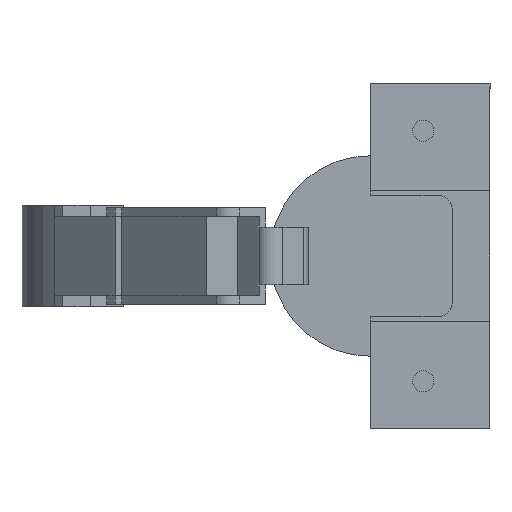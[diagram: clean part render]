
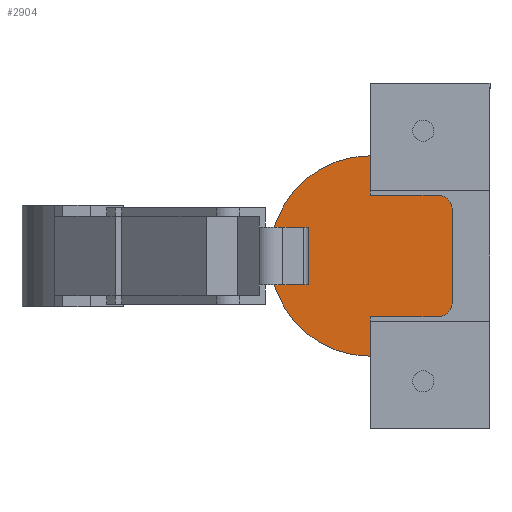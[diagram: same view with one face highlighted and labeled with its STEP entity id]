
A CAD part, front view. The second image highlights one B-rep face of the part: STEP entity #2904.
In plain terms, the highlighted planar face has unit normal (0, -1, 0).
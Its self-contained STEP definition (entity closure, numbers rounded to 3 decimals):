
#99 = EDGE_CURVE ( 'NONE', #1854, #958, #1106, .T. ) ;
#119 = DIRECTION ( 'NONE',  ( 0., 0., -1. ) ) ;
#213 = DIRECTION ( 'NONE',  ( -1., 0., 0. ) ) ;
#217 = DIRECTION ( 'NONE',  ( -1., 0., 0. ) ) ;
#226 = CIRCLE ( 'NONE', #585, 18. ) ;
#237 = ORIENTED_EDGE ( 'NONE', *, *, #1291, .T. ) ;
#274 = DIRECTION ( 'NONE',  ( 1., 0., 0. ) ) ;
#350 = VECTOR ( 'NONE', #1134, 1000. ) ;
#399 = LINE ( 'NONE', #3035, #3145 ) ;
#408 = EDGE_CURVE ( 'Kante1', #1653, #1127, #2064, .T. ) ;
#464 = LINE ( 'NONE', #699, #2978 ) ;
#467 = VECTOR ( 'NONE', #470, 1000. ) ;
#468 = FACE_OUTER_BOUND ( 'NONE', #2321, .T. ) ;
#470 = DIRECTION ( 'NONE',  ( -1., 0., 0. ) ) ;
#514 = AXIS2_PLACEMENT_3D ( 'NONE', #3190, #1934, #2451 ) ;
#529 = CARTESIAN_POINT ( 'NONE',  ( 55.005, -57.2, -8.4 ) ) ;
#537 = CARTESIAN_POINT ( 'NONE',  ( 28.996, -57.2, -5.2 ) ) ;
#565 = VERTEX_POINT ( 'NONE', #2468 ) ;
#578 = CARTESIAN_POINT ( 'NONE',  ( 40.305, -57.2, 0. ) ) ;
#585 = AXIS2_PLACEMENT_3D ( 'NONE', #578, #1587, #1090 ) ;
#634 = CARTESIAN_POINT ( 'NONE',  ( 55.005, -57.2, 8.4 ) ) ;
#699 = CARTESIAN_POINT ( 'NONE',  ( 28.996, -57.2, -5.2 ) ) ;
#712 = CARTESIAN_POINT ( 'NONE',  ( 52.505, -57.2, -8.4 ) ) ;
#723 = EDGE_LOOP ( 'NONE', ( #2652, #237, #1959, #1611 ) ) ;
#737 = AXIS2_PLACEMENT_3D ( 'NONE', #712, #3232, #217 ) ;
#750 = CIRCLE ( 'NONE', #514, 2.5 ) ;
#805 = VERTEX_POINT ( 'NONE', #2010 ) ;
#870 = CARTESIAN_POINT ( 'NONE',  ( 40.305, -57.2, -10.9 ) ) ;
#896 = ORIENTED_EDGE ( 'NONE', *, *, #3080, .F. ) ;
#945 = VECTOR ( 'NONE', #3165, 1000. ) ;
#958 = VERTEX_POINT ( 'NONE', #2295 ) ;
#1017 = EDGE_CURVE ( 'NONE', #958, #565, #3100, .T. ) ;
#1090 = DIRECTION ( 'NONE',  ( -1., 0., 0. ) ) ;
#1106 = LINE ( 'NONE', #2983, #467 ) ;
#1127 = VERTEX_POINT ( 'NONE', #870 ) ;
#1134 = DIRECTION ( 'NONE',  ( -1., 0., 0. ) ) ;
#1190 = CIRCLE ( 'NONE', #737, 2.5 ) ;
#1193 = ORIENTED_EDGE ( 'NONE', *, *, #2257, .F. ) ;
#1262 = DIRECTION ( 'NONE',  ( -1., 0., 0. ) ) ;
#1291 = EDGE_CURVE ( 'NONE', #2542, #565, #2210, .T. ) ;
#1299 = CARTESIAN_POINT ( 'NONE',  ( 52.505, -57.2, 10.9 ) ) ;
#1375 = CARTESIAN_POINT ( 'NONE',  ( 40.305, -57.2, -18. ) ) ;
#1441 = EDGE_CURVE ( 'NONE', #1649, #1447, #3174, .T. ) ;
#1447 = VERTEX_POINT ( 'NONE', #529 ) ;
#1551 = CARTESIAN_POINT ( 'NONE',  ( 55.005, -57.2, 8.4 ) ) ;
#1573 = EDGE_CURVE ( 'NONE', #1583, #1653, #226, .T. ) ;
#1583 = VERTEX_POINT ( 'NONE', #2599 ) ;
#1587 = DIRECTION ( 'NONE',  ( 0., -1., 0. ) ) ;
#1611 = ORIENTED_EDGE ( 'NONE', *, *, #99, .F. ) ;
#1629 = LINE ( 'NONE', #2677, #2779 ) ;
#1649 = VERTEX_POINT ( 'NONE', #634 ) ;
#1653 = VERTEX_POINT ( 'NONE', #1375 ) ;
#1669 = LINE ( 'NONE', #1738, #2914 ) ;
#1691 = EDGE_CURVE ( 'NONE', #2943, #1583, #1629, .T. ) ;
#1692 = ORIENTED_EDGE ( 'NONE', *, *, #408, .T. ) ;
#1738 = CARTESIAN_POINT ( 'NONE',  ( 40.305, -57.2, -10.9 ) ) ;
#1800 = EDGE_CURVE ( 'NONE', #2493, #1649, #750, .T. ) ;
#1807 = EDGE_CURVE ( 'NONE', #2542, #1854, #464, .T. ) ;
#1808 = CARTESIAN_POINT ( 'NONE',  ( 27.435, -57.2, -5.2 ) ) ;
#1854 = VERTEX_POINT ( 'NONE', #3227 ) ;
#1934 = DIRECTION ( 'NONE',  ( 0., 1., 0. ) ) ;
#1959 = ORIENTED_EDGE ( 'NONE', *, *, #1017, .F. ) ;
#1974 = AXIS2_PLACEMENT_3D ( 'NONE', #2952, #2459, #213 ) ;
#2010 = CARTESIAN_POINT ( 'NONE',  ( 52.505, -57.2, -10.9 ) ) ;
#2028 = DIRECTION ( 'NONE',  ( 0., 0., -1. ) ) ;
#2064 = LINE ( 'NONE', #2367, #945 ) ;
#2099 = VECTOR ( 'NONE', #119, 1000. ) ;
#2210 = LINE ( 'NONE', #3171, #350 ) ;
#2257 = EDGE_CURVE ( 'NONE', #1447, #805, #1190, .T. ) ;
#2295 = CARTESIAN_POINT ( 'NONE',  ( 27.435, -57.2, 5.2 ) ) ;
#2306 = FACE_BOUND ( 'NONE', #723, .T. ) ;
#2321 = EDGE_LOOP ( 'NONE', ( #2581, #1692, #896, #1193, #2882, #2915, #3159, #2696 ) ) ;
#2367 = CARTESIAN_POINT ( 'NONE',  ( 40.305, -57.2, 18. ) ) ;
#2423 = VECTOR ( 'NONE', #2028, 1000. ) ;
#2451 = DIRECTION ( 'NONE',  ( -1., 0., 0. ) ) ;
#2459 = DIRECTION ( 'NONE',  ( 0., -1., 0. ) ) ;
#2468 = CARTESIAN_POINT ( 'NONE',  ( 27.435, -57.2, -5.2 ) ) ;
#2481 = CARTESIAN_POINT ( 'NONE',  ( 40.305, -57.2, 10.9 ) ) ;
#2493 = VERTEX_POINT ( 'NONE', #1299 ) ;
#2542 = VERTEX_POINT ( 'NONE', #537 ) ;
#2581 = ORIENTED_EDGE ( 'NONE', *, *, #1573, .T. ) ;
#2599 = CARTESIAN_POINT ( 'NONE',  ( 40.305, -57.2, 18. ) ) ;
#2652 = ORIENTED_EDGE ( 'NONE', *, *, #1807, .F. ) ;
#2677 = CARTESIAN_POINT ( 'NONE',  ( 40.305, -57.2, 18. ) ) ;
#2696 = ORIENTED_EDGE ( 'NONE', *, *, #1691, .T. ) ;
#2706 = PLANE ( 'NONE',  #1974 ) ;
#2779 = VECTOR ( 'NONE', #3169, 1000. ) ;
#2882 = ORIENTED_EDGE ( 'NONE', *, *, #1441, .F. ) ;
#2904 = ADVANCED_FACE ( 'NONE', ( #2306, #468 ), #2706, .T. ) ;
#2914 = VECTOR ( 'NONE', #1262, 1000. ) ;
#2915 = ORIENTED_EDGE ( 'NONE', *, *, #1800, .F. ) ;
#2943 = VERTEX_POINT ( 'NONE', #2481 ) ;
#2952 = CARTESIAN_POINT ( 'NONE',  ( 40.305, -57.2, 0. ) ) ;
#2971 = EDGE_CURVE ( 'NONE', #2943, #2493, #399, .T. ) ;
#2975 = DIRECTION ( 'NONE',  ( 0., 0., 1. ) ) ;
#2978 = VECTOR ( 'NONE', #2975, 1000. ) ;
#2983 = CARTESIAN_POINT ( 'NONE',  ( 22.499, -57.2, 5.2 ) ) ;
#3035 = CARTESIAN_POINT ( 'NONE',  ( 40.305, -57.2, 10.9 ) ) ;
#3080 = EDGE_CURVE ( 'NONE', #805, #1127, #1669, .T. ) ;
#3100 = LINE ( 'NONE', #1808, #2099 ) ;
#3145 = VECTOR ( 'NONE', #274, 1000. ) ;
#3159 = ORIENTED_EDGE ( 'NONE', *, *, #2971, .F. ) ;
#3165 = DIRECTION ( 'NONE',  ( 0., 0., 1. ) ) ;
#3169 = DIRECTION ( 'NONE',  ( 0., 0., 1. ) ) ;
#3171 = CARTESIAN_POINT ( 'NONE',  ( 22.499, -57.2, -5.2 ) ) ;
#3174 = LINE ( 'NONE', #1551, #2423 ) ;
#3190 = CARTESIAN_POINT ( 'NONE',  ( 52.505, -57.2, 8.4 ) ) ;
#3227 = CARTESIAN_POINT ( 'NONE',  ( 28.996, -57.2, 5.2 ) ) ;
#3232 = DIRECTION ( 'NONE',  ( 0., 1., 0. ) ) ;
